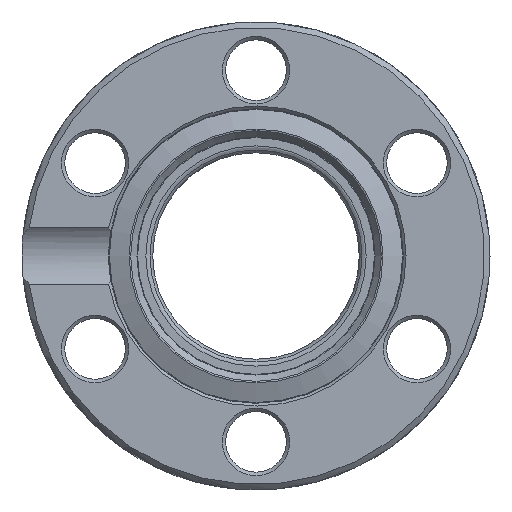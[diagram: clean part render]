
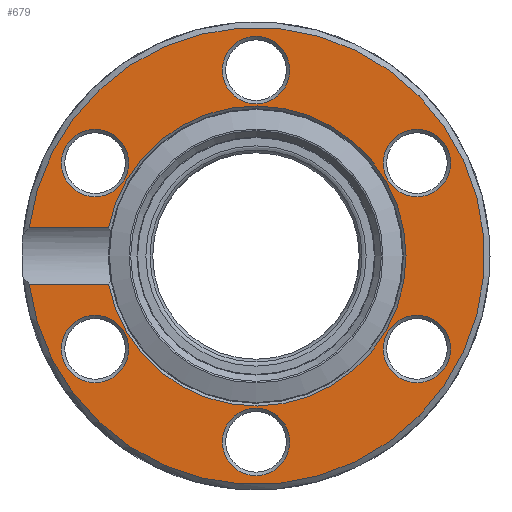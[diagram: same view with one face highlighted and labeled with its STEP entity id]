
A CAD part, left-side view. The second image highlights one B-rep face of the part: STEP entity #679.
In plain terms, the highlighted planar face has unit normal (-1, 0, 0).
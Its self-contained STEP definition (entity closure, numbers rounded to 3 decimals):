
#309=CARTESIAN_POINT('',(-250.,10.707,2.04));
#310=VERTEX_POINT('',#309);
#329=CARTESIAN_POINT('',(-250.,10.707,-2.04));
#330=VERTEX_POINT('',#329);
#338=CARTESIAN_POINT('',(-250.,0.,0.));
#339=DIRECTION('',(-1.0,0.0,0.0));
#340=DIRECTION('',(0.0,-1.0,0.0));
#341=AXIS2_PLACEMENT_3D('',#338,#339,#340);
#342=CIRCLE('',#341,10.9);
#343=EDGE_CURVE('',#330,#310,#342,.T.);
#542=CARTESIAN_POINT('',(-250.,16.474,2.04));
#543=VERTEX_POINT('',#542);
#553=CARTESIAN_POINT('',(-250.,16.474,-2.04));
#554=VERTEX_POINT('',#553);
#555=CARTESIAN_POINT('',(-250.,0.,0.));
#556=DIRECTION('',(1.0,0.0,0.0));
#557=DIRECTION('',(0.0,-1.0,0.0));
#558=AXIS2_PLACEMENT_3D('',#555,#556,#557);
#559=CIRCLE('',#558,16.6);
#560=EDGE_CURVE('',#543,#554,#559,.T.);
#583=CARTESIAN_POINT('',(-250.,16.474,2.04));
#584=DIRECTION('',(0.0,-1.0,0.0));
#585=VECTOR('',#584,5.767);
#586=LINE('',#583,#585);
#587=EDGE_CURVE('',#543,#310,#586,.T.);
#593=CARTESIAN_POINT('',(-250.,10.707,-2.04));
#594=DIRECTION('',(0.0,1.0,0.0));
#595=VECTOR('',#594,5.767);
#596=LINE('',#593,#595);
#597=EDGE_CURVE('',#330,#554,#596,.T.);
#602=CARTESIAN_POINT('',(-250.,13.85,0.));
#603=DIRECTION('',(-1.0,0.0,0.0));
#604=DIRECTION('',(0.0,0.0,1.0));
#605=AXIS2_PLACEMENT_3D('',#602,#603,#604);
#606=PLANE('',#605);
#607=ORIENTED_EDGE('',*,*,#343,.F.);
#608=ORIENTED_EDGE('',*,*,#597,.T.);
#609=ORIENTED_EDGE('',*,*,#560,.F.);
#610=ORIENTED_EDGE('',*,*,#587,.T.);
#611=EDGE_LOOP('',(#607,#608,#609,#610));
#612=FACE_OUTER_BOUND('',#611,.T.);
#613=CARTESIAN_POINT('',(-250.,-13.813,5.525));
#614=VERTEX_POINT('',#613);
#615=CARTESIAN_POINT('',(-250.,-11.691,6.75));
#616=DIRECTION('',(-1.0,0.,0.));
#617=DIRECTION('',(0.,0.866,0.5));
#618=AXIS2_PLACEMENT_3D('',#615,#616,#617);
#619=CIRCLE('',#618,2.45);
#620=EDGE_CURVE('',#614,#614,#619,.T.);
#621=ORIENTED_EDGE('',*,*,#620,.F.);
#622=EDGE_LOOP('',(#621));
#623=FACE_BOUND('',#622,.T.);
#624=CARTESIAN_POINT('',(-250.,11.691,9.2));
#625=VERTEX_POINT('',#624);
#626=CARTESIAN_POINT('',(-250.,11.691,6.75));
#627=DIRECTION('',(-1.0,0.0,0.0));
#628=DIRECTION('',(0.0,0.0,-1.0));
#629=AXIS2_PLACEMENT_3D('',#626,#627,#628);
#630=CIRCLE('',#629,2.45);
#631=EDGE_CURVE('',#625,#625,#630,.T.);
#632=ORIENTED_EDGE('',*,*,#631,.F.);
#633=EDGE_LOOP('',(#632));
#634=FACE_BOUND('',#633,.T.);
#635=CARTESIAN_POINT('',(-250.,-2.122,14.725));
#636=VERTEX_POINT('',#635);
#637=CARTESIAN_POINT('',(-250.,0.,13.5));
#638=DIRECTION('',(-1.0,0.,0.));
#639=DIRECTION('',(0.,0.866,-0.5));
#640=AXIS2_PLACEMENT_3D('',#637,#638,#639);
#641=CIRCLE('',#640,2.45);
#642=EDGE_CURVE('',#636,#636,#641,.T.);
#643=ORIENTED_EDGE('',*,*,#642,.F.);
#644=EDGE_LOOP('',(#643));
#645=FACE_BOUND('',#644,.T.);
#646=CARTESIAN_POINT('',(-250.,-11.691,-9.2));
#647=VERTEX_POINT('',#646);
#648=CARTESIAN_POINT('',(-250.,-11.691,-6.75));
#649=DIRECTION('',(-1.0,0.0,0.0));
#650=DIRECTION('',(0.0,0.0,1.0));
#651=AXIS2_PLACEMENT_3D('',#648,#649,#650);
#652=CIRCLE('',#651,2.45);
#653=EDGE_CURVE('',#647,#647,#652,.T.);
#654=ORIENTED_EDGE('',*,*,#653,.F.);
#655=EDGE_LOOP('',(#654));
#656=FACE_BOUND('',#655,.T.);
#657=CARTESIAN_POINT('',(-250.,13.813,-5.525));
#658=VERTEX_POINT('',#657);
#659=CARTESIAN_POINT('',(-250.,11.691,-6.75));
#660=DIRECTION('',(-1.,0.,0.));
#661=DIRECTION('',(0.,-0.866,-0.5));
#662=AXIS2_PLACEMENT_3D('',#659,#660,#661);
#663=CIRCLE('',#662,2.45);
#664=EDGE_CURVE('',#658,#658,#663,.T.);
#665=ORIENTED_EDGE('',*,*,#664,.F.);
#666=EDGE_LOOP('',(#665));
#667=FACE_BOUND('',#666,.T.);
#668=CARTESIAN_POINT('',(-250.,2.122,-14.725));
#669=VERTEX_POINT('',#668);
#670=CARTESIAN_POINT('',(-250.,0.,-13.5));
#671=DIRECTION('',(-1.0,0.,0.));
#672=DIRECTION('',(0.,-0.866,0.5));
#673=AXIS2_PLACEMENT_3D('',#670,#671,#672);
#674=CIRCLE('',#673,2.45);
#675=EDGE_CURVE('',#669,#669,#674,.T.);
#676=ORIENTED_EDGE('',*,*,#675,.F.);
#677=EDGE_LOOP('',(#676));
#678=FACE_BOUND('',#677,.T.);
#679=ADVANCED_FACE('',(#612,#623,#634,#645,#656,#667,#678),#606,.T.);
